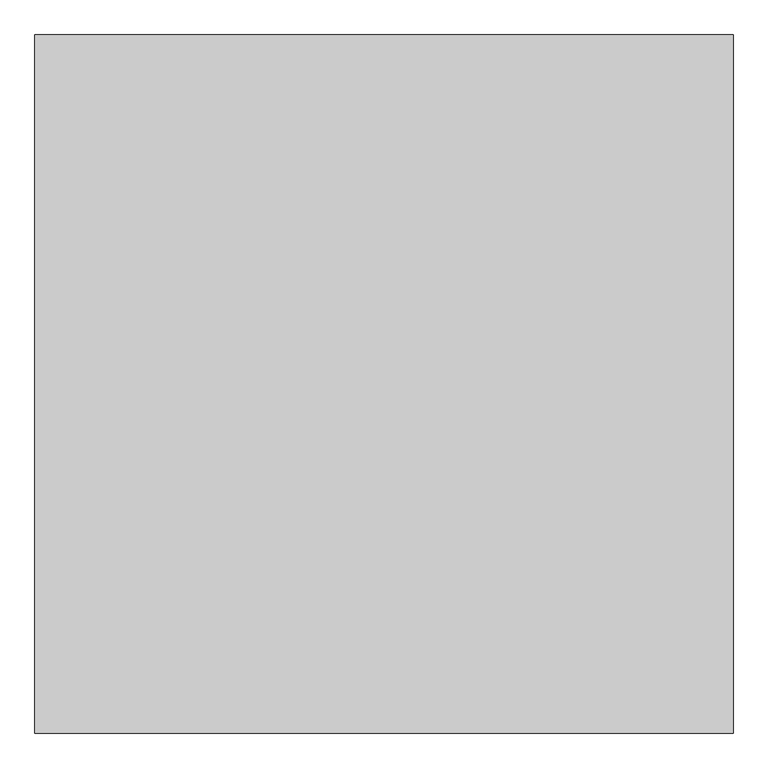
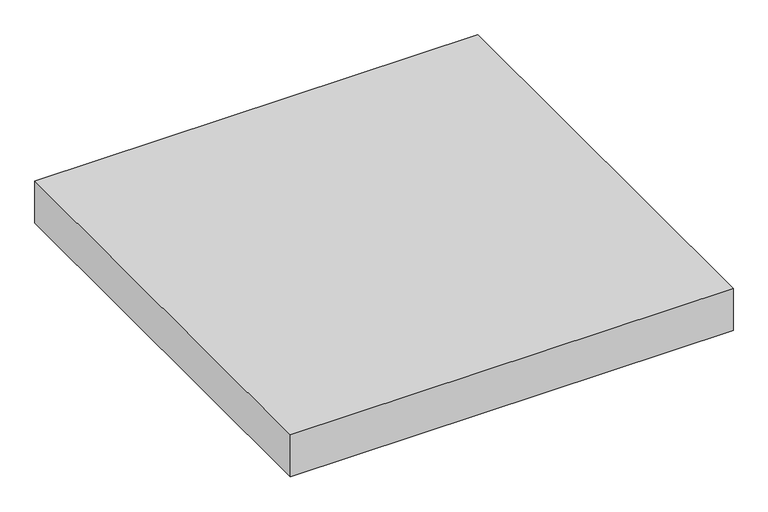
"""IFC4 building model written with IfcOpenShell, lengths in millimetres: proxy geometry, Modelos genéricos 3 : Modelos genéricos 1."""

from ifc_helpers import new_model, si_unit, origin, origin_with_axes, place, context, project, spatial, polyline, outline, extrude, source, transform, mapped, element, save


def generic_models_28068f12(model_context):
    return source(origin(), model_context, "Body", "SweptSolid", [
        extrude(outline(polyline([(-14225.6026359, 6454.287186), (-14225.6026359, 4954.287186), (-15725.6026359, 4954.287186), (-15725.6026359, 6454.287186), (-14225.6026359, 6454.287186)])), origin_with_axes(), (0.0, 0.0, 1.0), 150.0),
    ])


if __name__ == "__main__":
    model = new_model("IFC4")
    model_context = context("Model", 3, world=origin())
    ifc_project = project(units=[si_unit("LENGTHUNIT", "METRE", prefix="MILLI")], contexts=[model_context])
    site = spatial("IfcSite", under=ifc_project)
    building = spatial("IfcBuilding", under=site)
    placement = place(None, origin())
    generic_models_shape = generic_models_28068f12(model_context)
    element("IfcBuildingElementProxy", 1, Name="Modelos genéricos 3 : Modelos genéricos 1", ObjectType="Modelos genéricos 3 : Modelos genéricos 1", at=placement, inside=building, context=model_context, shape_type="MappedRepresentation", body=[
        mapped(generic_models_shape, transform((0.0, 0.0, 0.0), x_axis=(1.0, 0.0, 0.0), y_axis=(0.0, 1.0, 0.0), z_axis=(0.0, 0.0, 1.0))),
    ])
    save(model, "model.ifc")
